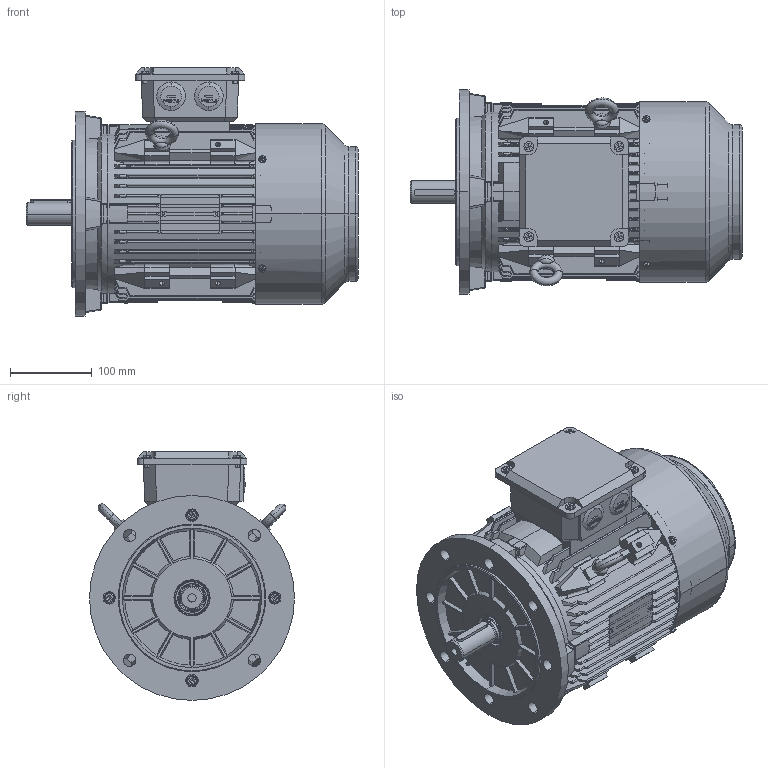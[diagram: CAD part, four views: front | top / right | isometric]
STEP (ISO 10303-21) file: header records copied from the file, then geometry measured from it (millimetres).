
FILE_DESCRIPTION (( 'STEP AP214' ), '1' );
FILE_NAME ('BCT3400.11D205.11.STEP', '2020-04-22T16:42:45', ( '' ), ( '' ), 'SwSTEP 2.0', 'SolidWorks 2019', '' );
FILE_SCHEMA (( 'AUTOMOTIVE_DESIGN' ));
Length unit declared in the file: millimetre
Products named in the file (1): BCT3400.11D205.11
Bounding box: 405 x 250 x 303.5 mm (x, y, z)
Volume: 3210940.1 mm3; surface area: 1214378.8 mm2
Topology: 32 solids, 32 shells, 3586 faces, 9879 edges, 6457 vertices
Faces by surface type: plane 1756, cylinder 1252, cone 310, bspline 148, torus 120
Entity records: 138676 total; most frequent: CARTESIAN_POINT 47043, ORIENTED_EDGE 19710, DIRECTION 18199, EDGE_CURVE 9855, VERTEX_POINT 6457, AXIS2_PLACEMENT_3D 6274, VECTOR 5651, LINE 5651
